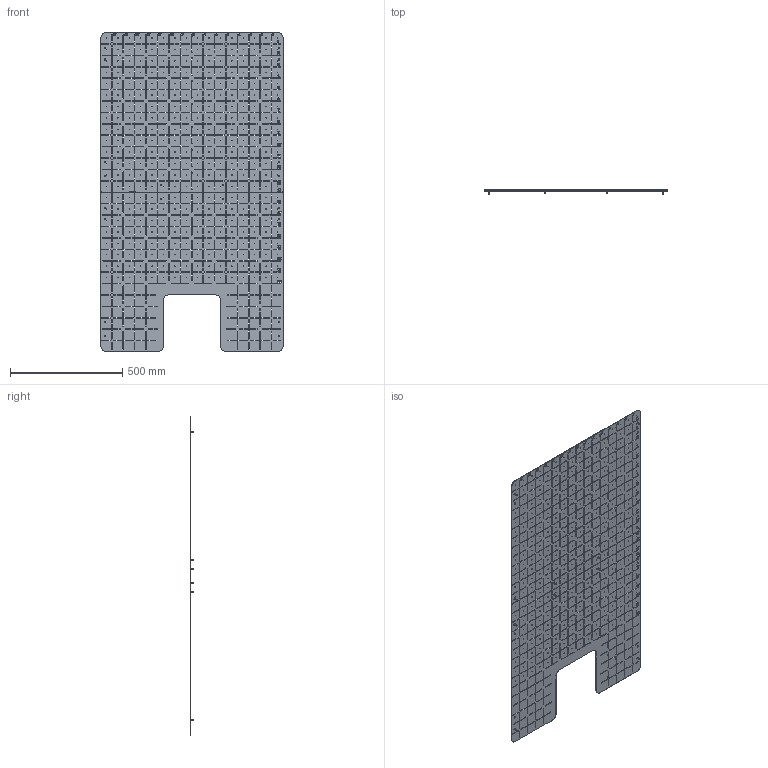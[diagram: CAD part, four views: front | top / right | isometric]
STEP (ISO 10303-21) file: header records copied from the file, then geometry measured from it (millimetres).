
FILE_DESCRIPTION (( 'STEP AP203' ), '1' );
FILE_NAME ('5012183 - VERSACART 1300 STANDARD STAINLESS STEEL VISUAL INFEED.STEP', '2024-12-11T17:56:45', ( '' ), ( '' ), 'SwSTEP 2.0', 'SolidWorks 2019', '' );
FILE_SCHEMA (( 'CONFIG_CONTROL_DESIGN' ));
Length unit declared in the file: metre
Products named in the file (6): 5012183_Default Configuration; 5012087_Default Configuration; M4x0.7 FHCS_FHCS M4x0.7x16; 5011679_Default Configuration; 5011680_Default Configuration; 5012183 - VERSACART 1300 STANDARD STAINLESS STEEL VISUAL INFEED
Assembly tree (15 placements, depth 3):
  5012087_Default Configuration
  5012183 - VERSACART 1300 STANDARD STAINLESS STEEL VISUAL INFEED
    5012183_Default Configuration
      5011679_Default Configuration
      5011680_Default Configuration
      M4x0.7 FHCS_FHCS M4x0.7x16  x12
Bounding box: 812.8 x 16.57 x 1422.4 mm (x, y, z)
Volume: 3068243.6 mm3; surface area: 2239026.3 mm2
Topology: 14 solids, 14 shells, 5068 faces, 14988 edges, 9948 vertices
Faces by surface type: plane 3120, cylinder 1852, cone 96
Entity records: 167389 total; most frequent: CARTESIAN_POINT 29075, ORIENTED_EDGE 29048, DIRECTION 27924, EDGE_CURVE 14524, VECTOR 10880, LINE 10880, VERTEX_POINT 9673, AXIS2_PLACEMENT_3D 8522
